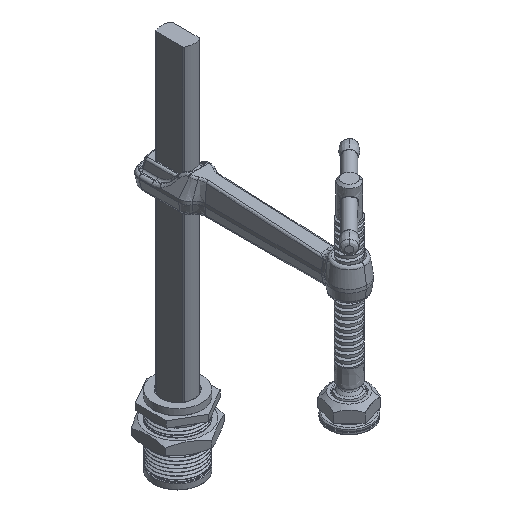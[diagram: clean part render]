
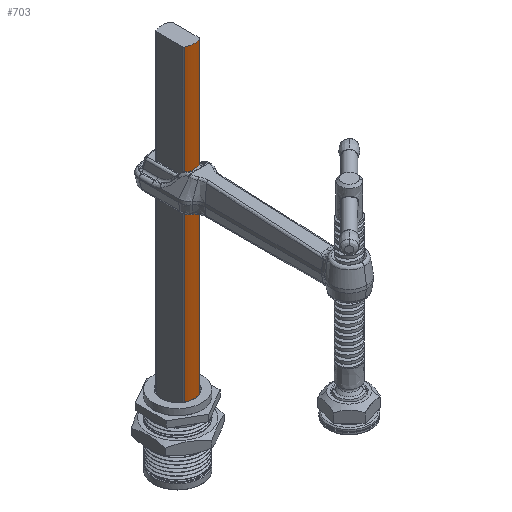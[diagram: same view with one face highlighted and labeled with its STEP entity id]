
A CAD part, isometric view. The second image highlights one B-rep face of the part: STEP entity #703.
In plain terms, the highlighted free-form (B-spline) face has degree [2, 1] with [3, 2] control points.
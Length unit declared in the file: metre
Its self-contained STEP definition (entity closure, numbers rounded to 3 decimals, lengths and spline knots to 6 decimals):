
#703 = ADVANCED_FACE( '', ( #1747 ), #1748, .T. );
#1747 = FACE_OUTER_BOUND( '', #3750, .T. );
#1748 = ( BOUNDED_SURFACE(  )B_SPLINE_SURFACE( 2, 1, ( ( #3753, #3754 ), ( #3755, #3756 ), ( #3757, #3758 ) ), .UNSPECIFIED., .F., .F., .F. )B_SPLINE_SURFACE_WITH_KNOTS( ( 3, 3 ), ( 2, 2 ), ( 0., 1. ), ( 0., 1. ), .UNSPECIFIED. )GEOMETRIC_REPRESENTATION_ITEM(  )RATIONAL_B_SPLINE_SURFACE( ( ( 1., 1. ), ( 0.886, 0.886 ), ( 1., 1. ) ) )REPRESENTATION_ITEM( '' )SURFACE(  ) );
#3750 = EDGE_LOOP( '', ( #15505, #15506, #15507, #15508 ) );
#3753 = CARTESIAN_POINT( '', ( -0.006964, -0.013285, 0.016 ) );
#3754 = CARTESIAN_POINT( '', ( -0.006964, -0.013285, 0.346 ) );
#3755 = CARTESIAN_POINT( '', ( 0., -0.016936, 0.016 ) );
#3756 = CARTESIAN_POINT( '', ( 0., -0.016936, 0.346 ) );
#3757 = CARTESIAN_POINT( '', ( 0.006964, -0.013285, 0.016 ) );
#3758 = CARTESIAN_POINT( '', ( 0.006964, -0.013285, 0.346 ) );
#15505 = ORIENTED_EDGE( '', *, *, #18211, .T. );
#15506 = ORIENTED_EDGE( '', *, *, #18212, .T. );
#15507 = ORIENTED_EDGE( '', *, *, #18213, .T. );
#15508 = ORIENTED_EDGE( '', *, *, #18214, .F. );
#18211 = EDGE_CURVE( '', #20394, #20395, #20396, .T. );
#18212 = EDGE_CURVE( '', #20395, #20397, #20398, .T. );
#18213 = EDGE_CURVE( '', #20397, #20399, #20400, .T. );
#18214 = EDGE_CURVE( '', #20394, #20399, #20401, .T. );
#20394 = VERTEX_POINT( '', #26870 );
#20395 = VERTEX_POINT( '', #26871 );
#20396 = ( BOUNDED_CURVE(  )B_SPLINE_CURVE( 2, ( #26874, #26875, #26876 ), .UNSPECIFIED., .F., .F. )B_SPLINE_CURVE_WITH_KNOTS( ( 3, 3 ), ( 0., 1. ), .UNSPECIFIED. )CURVE(  )GEOMETRIC_REPRESENTATION_ITEM(  )RATIONAL_B_SPLINE_CURVE( ( 1., 0.886, 1. ) )REPRESENTATION_ITEM( '' ) );
#20397 = VERTEX_POINT( '', #26882 );
#20398 = B_SPLINE_CURVE_WITH_KNOTS( '', 1, ( #26883, #26884 ), .UNSPECIFIED., .F., .F., ( 2, 2 ), ( 0., 1. ), .UNSPECIFIED. );
#20399 = VERTEX_POINT( '', #26885 );
#20400 = ( BOUNDED_CURVE(  )B_SPLINE_CURVE( 2, ( #26888, #26889, #26890 ), .UNSPECIFIED., .F., .F. )B_SPLINE_CURVE_WITH_KNOTS( ( 3, 3 ), ( 0., 1. ), .UNSPECIFIED. )CURVE(  )GEOMETRIC_REPRESENTATION_ITEM(  )RATIONAL_B_SPLINE_CURVE( ( 1., 0.886, 1. ) )REPRESENTATION_ITEM( '' ) );
#20401 = B_SPLINE_CURVE_WITH_KNOTS( '', 1, ( #26896, #26897 ), .UNSPECIFIED., .F., .F., ( 2, 2 ), ( 0., 1. ), .UNSPECIFIED. );
#26870 = CARTESIAN_POINT( '', ( 0.006964, -0.013285, 0.346 ) );
#26871 = CARTESIAN_POINT( '', ( -0.006964, -0.013285, 0.346 ) );
#26874 = CARTESIAN_POINT( '', ( 0.006964, -0.013285, 0.346 ) );
#26875 = CARTESIAN_POINT( '', ( 0., -0.016936, 0.346 ) );
#26876 = CARTESIAN_POINT( '', ( -0.006964, -0.013285, 0.346 ) );
#26882 = CARTESIAN_POINT( '', ( -0.006964, -0.013285, 0.016 ) );
#26883 = CARTESIAN_POINT( '', ( -0.006964, -0.013285, 0.346 ) );
#26884 = CARTESIAN_POINT( '', ( -0.006964, -0.013285, 0.016 ) );
#26885 = CARTESIAN_POINT( '', ( 0.006964, -0.013285, 0.016 ) );
#26888 = CARTESIAN_POINT( '', ( -0.006964, -0.013285, 0.016 ) );
#26889 = CARTESIAN_POINT( '', ( 0., -0.016936, 0.016 ) );
#26890 = CARTESIAN_POINT( '', ( 0.006964, -0.013285, 0.016 ) );
#26896 = CARTESIAN_POINT( '', ( 0.006964, -0.013285, 0.346 ) );
#26897 = CARTESIAN_POINT( '', ( 0.006964, -0.013285, 0.016 ) );
